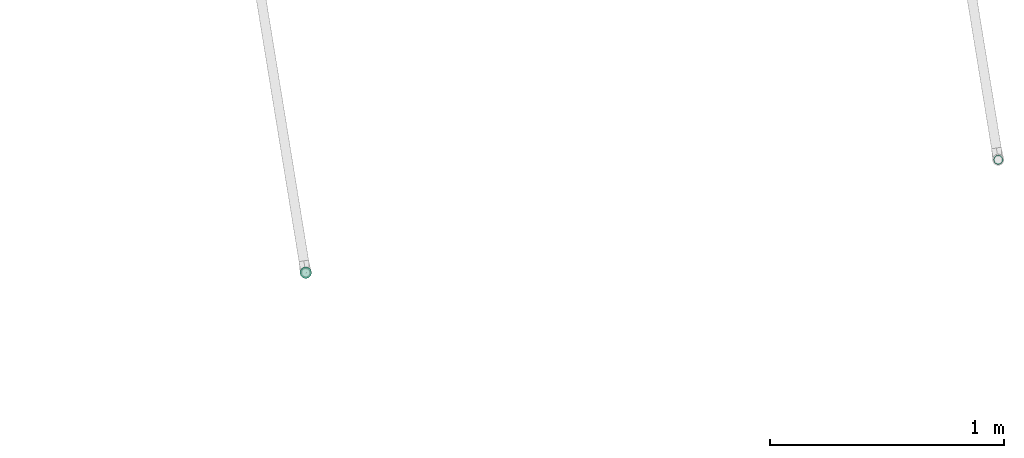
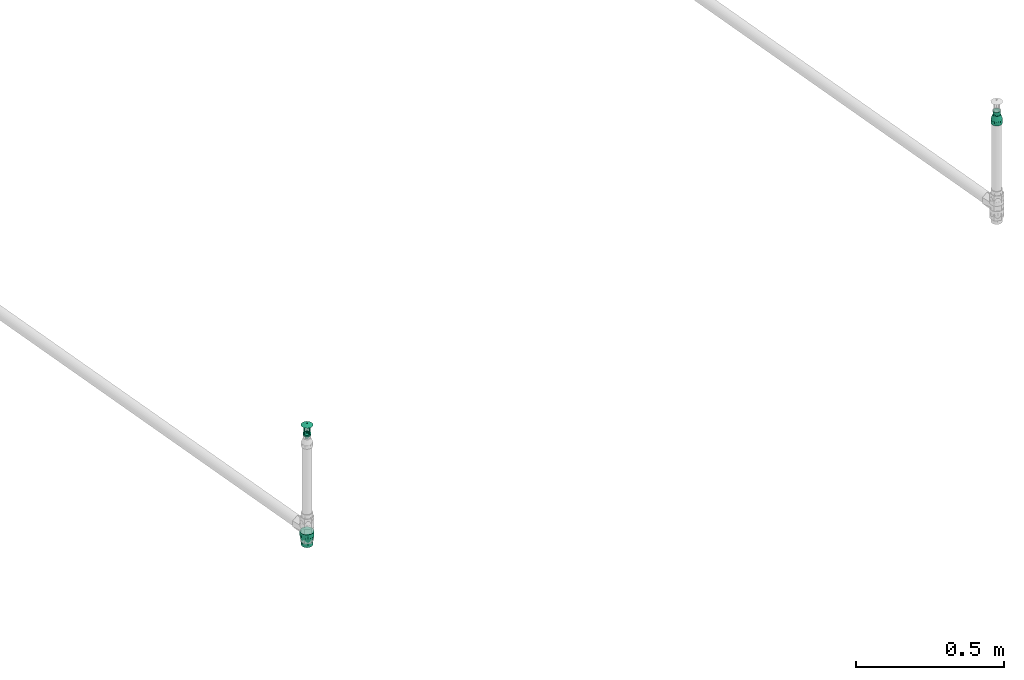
# One storey, part 38 of 56: 2 flow fittings, 1 flow terminal.
"""IFC2X3 building model written with IfcOpenShell, lengths in millimetres."""

import ifcopenshell
import ifcopenshell.guid

model = None  # the IFC model being written
_history = None  # IfcOwnerHistory: only IFC2X3 demands one
_inside = {}  # id of a spatial element -> (the spatial element, [elements in it])
_under = {}  # id of a project, library or spatial element -> (it, [spatial elements below it])
_declared = {}  # id of a project -> (the project, [libraries it declares])
_typed = {}  # id of a type object -> (the type object, [elements of that type])
_made_of = {}  # id of a material, layer set ... -> (it, [elements and type objects made of it])


def new_model(schema):
    """Start an empty IFC model of exactly this schema.

    Asked for "IFC4X3", IfcOpenShell would pick the latest addendum, in which some entities
    have other attributes; the version numbers below select the first issue.
    IFC2X3 requires an IfcOwnerHistory on every rooted entity: one is made here for all.
    """
    global model, _history
    if schema == "IFC4X3":
        model = ifcopenshell.file(schema_version=(4, 3, 0, 0))
    else:
        model = ifcopenshell.file(schema=schema)
    _inside.clear()
    _under.clear()
    _declared.clear()
    _typed.clear()
    _made_of.clear()
    _history = None
    if model.schema == "IFC2X3":
        org = make("IfcOrganization", Name="unknown")
        user = make(
            "IfcPersonAndOrganization",
            ThePerson=make("IfcPerson", FamilyName="unknown"),
            TheOrganization=org,
        )
        app = make(
            "IfcApplication",
            ApplicationDeveloper=org,
            Version="unknown",
            ApplicationFullName="unknown",
            ApplicationIdentifier="unknown",
        )
        _history = make(
            "IfcOwnerHistory",
            OwningUser=user,
            OwningApplication=app,
            ChangeAction="ADDED",
            CreationDate=0,
        )
    return model


def make(cls, **values):
    """One entity of the class cls with the attributes given. An attribute that is None is left unset."""
    return model.create_entity(
        cls, **{name: value for name, value in values.items() if value is not None}
    )


def entity(cls, *values):
    """Any entity or typed value of the class cls, its attributes in the order of the schema. None: left unset."""
    e = model.create_entity(cls)
    for i, value in enumerate(values):
        if value is not None:
            e[i] = value
    return e


def rooted(cls, **values):
    """An entity with a GlobalId (a new one), such as an element, a storey or a relation."""
    return make(cls, GlobalId=ifcopenshell.guid.new(), OwnerHistory=_history, **values)


def si_unit(unit_type, name, prefix=None):
    """IfcSIUnit, for example si_unit("LENGTHUNIT", "METRE", prefix="MILLI")."""
    return make("IfcSIUnit", UnitType=unit_type, Prefix=prefix, Name=name)


def converted_unit(unit_type, name, factor, base, dimensions=None, offset=None):
    """IfcConversionBasedUnit, such as the inch: factor (a typed value) times the base unit."""
    return make(
        "IfcConversionBasedUnit"
        if offset is None
        else "IfcConversionBasedUnitWithOffset",
        ConversionOffset=offset,
        Dimensions=None
        if dimensions is None
        else entity("IfcDimensionalExponents", *dimensions),
        UnitType=unit_type,
        Name=name,
        ConversionFactor=make(
            "IfcMeasureWithUnit", ValueComponent=factor, UnitComponent=base
        ),
    )


def derived_unit(unit_type, elements):
    """IfcDerivedUnit: a product of units, each with its exponent."""
    return make(
        "IfcDerivedUnit",
        Elements=[
            make("IfcDerivedUnitElement", Unit=unit, Exponent=power)
            for unit, power in elements
        ],
        UnitType=unit_type,
    )


def assignment(units):
    """IfcUnitAssignment: the units of a project."""
    return None if units is None else make("IfcUnitAssignment", Units=units)


def point(xyz):
    """IfcCartesianPoint."""
    return None if xyz is None else make("IfcCartesianPoint", Coordinates=xyz)


def direction(xyz):
    """IfcDirection."""
    return None if xyz is None else make("IfcDirection", DirectionRatios=xyz)


def frame(location, z_axis=None, x_axis=None):
    """IfcAxis2Placement3D, a coordinate frame: its origin and axes. An axis left out is left unset."""
    return make(
        "IfcAxis2Placement3D",
        Location=point(location),
        Axis=direction(z_axis),
        RefDirection=direction(x_axis),
    )


def origin():
    """The frame at (0, 0, 0) with its axes left unset."""
    return frame((0.0, 0.0, 0.0))


def origin_with_axes():
    """The frame at (0, 0, 0) with the z axis (0, 0, 1) and the x axis (1, 0, 0) written out."""
    return frame((0.0, 0.0, 0.0), z_axis=(0.0, 0.0, 1.0), x_axis=(1.0, 0.0, 0.0))


def place(relative_to, where):
    """IfcLocalPlacement: puts the frame where relative to a parent placement (None: the world)."""
    return make(
        "IfcLocalPlacement", PlacementRelTo=relative_to, RelativePlacement=where
    )


def context(
    kind, dimensions, precision=None, world=None, true_north=None, identifier=None
):
    """IfcGeometricRepresentationContext, for example the 3D "Model" context."""
    return make(
        "IfcGeometricRepresentationContext",
        ContextIdentifier=identifier,
        ContextType=kind,
        CoordinateSpaceDimension=dimensions,
        Precision=precision,
        WorldCoordinateSystem=world,
        TrueNorth=true_north,
    )


def subcontext(parent, identifier, kind, view, scale=None):
    """IfcGeometricRepresentationSubContext, for example "Body" below "Model"."""
    return make(
        "IfcGeometricRepresentationSubContext",
        ContextIdentifier=identifier,
        ContextType=kind,
        ParentContext=parent,
        TargetScale=scale,
        TargetView=view,
    )


def project(units=None, contexts=None):
    """IfcProject with its units and contexts."""
    return rooted(
        "IfcProject",
        Name="project",
        RepresentationContexts=contexts,
        UnitsInContext=assignment(units),
    )


def spatial(cls, under=None, at=None, **own):
    """A site, building, storey or space (cls), placed at a placement, below another one or the project."""
    s = rooted(cls, ObjectPlacement=at, **own)
    if under is not None:
        _under.setdefault(under.id(), (under, []))[1].append(s)
    return s


def faces_of(points, faces, orient=None, outer=None):
    """IfcFace entities. A face is a list of loops; a loop is a list of indices into points, from 0.

    orient and outer hold one flag for each loop. By default every Orientation is true, the
    first loop of a face is its IfcFaceOuterBound and the others are IfcFaceBound.
    """
    made = []
    for i, loops in enumerate(faces):
        bounds = []
        for j, loop in enumerate(loops):
            is_outer = j == 0 if outer is None else outer[i][j]
            bounds.append(
                make(
                    "IfcFaceOuterBound" if is_outer else "IfcFaceBound",
                    Bound=make("IfcPolyLoop", Polygon=[points[k] for k in loop]),
                    Orientation=True if orient is None else orient[i][j],
                )
            )
        made.append(make("IfcFace", Bounds=bounds))
    return made


def faceted_brep(points, faces, orient=None, outer=None, voids=None):
    """IfcFacetedBrep: a solid bounded by flat faces; with voids (closed shells), ...WithVoids."""
    shared = [point(p) for p in points]
    hull = make("IfcClosedShell", CfsFaces=faces_of(shared, faces, orient, outer))
    if voids is None:
        return make("IfcFacetedBrep", Outer=hull)
    return make(
        "IfcFacetedBrepWithVoids",
        Outer=hull,
        Voids=[
            make(cls, CfsFaces=faces_of(shared, fs, o, b)) for cls, fs, o, b in voids
        ],
    )


def shape(context_of_items, identifier, shape_type, items):
    """IfcShapeRepresentation: the items that make up one representation, for example the "Body"."""
    return make(
        "IfcShapeRepresentation",
        ContextOfItems=context_of_items,
        RepresentationIdentifier=identifier,
        RepresentationType=shape_type,
        Items=items,
    )


def source(mapping_origin, context_of_items, identifier, shape_type, items):
    """IfcRepresentationMap: a shape defined once, which mapped items show again and again."""
    return make(
        "IfcRepresentationMap",
        MappingOrigin=mapping_origin,
        MappedRepresentation=shape(context_of_items, identifier, shape_type, items),
    )


def transform(
    local_origin,
    x_axis=None,
    y_axis=None,
    z_axis=None,
    scale=None,
    scale2=None,
    scale3=None,
    uniform=True,
):
    """IfcCartesianTransformationOperator3D, or its non-uniform kind. x_axis, y_axis, z_axis: its Axis1, 2, 3."""
    if uniform:
        return make(
            "IfcCartesianTransformationOperator3D",
            Axis1=direction(x_axis),
            Axis2=direction(y_axis),
            LocalOrigin=point(local_origin),
            Scale=scale,
            Axis3=direction(z_axis),
        )
    return make(
        "IfcCartesianTransformationOperator3DnonUniform",
        Axis1=direction(x_axis),
        Axis2=direction(y_axis),
        LocalOrigin=point(local_origin),
        Scale=scale,
        Axis3=direction(z_axis),
        Scale2=scale2,
        Scale3=scale3,
    )


def mapped(mapping_source, mapping_target):
    """IfcMappedItem: shows the shape of a source again, moved by a transform."""
    return make(
        "IfcMappedItem", MappingSource=mapping_source, MappingTarget=mapping_target
    )


def material(Name=None, Category=None):
    """IfcMaterial."""
    return make("IfcMaterial", Name=Name, Category=Category)


def made_of(thing, what):
    """Note that an element or type object is made of a material, layer set ...; save() writes the relation."""
    if what is not None:
        _made_of.setdefault(what.id(), (what, []))[1].append(thing)
    return thing


def type_object(cls, material=None, **own):
    """A type object (cls), such as IfcWallType, which elements share."""
    return made_of(rooted(cls, **own), material)


def element(
    cls,
    number,
    at=None,
    inside=None,
    cuts=None,
    type_object=None,
    material=None,
    context=None,
    identifier="Body",
    shape_type=None,
    held_by="IfcProductDefinitionShape",
    body=None,
    shapes=None,
    **own,
):
    """One element of the class cls, such as IfcWall. Its Tag is "e" and its number.

    at: its placement. inside: the storey or other place that contains it. cuts: it is an
    opening in that element (IfcRelVoidsElement). A single representation is given by context,
    identifier, shape_type and body (its items); several are given by shapes. held_by: the class
    of the entity that holds the representations. save() writes the other relations.
    """
    e = rooted(cls, Tag="e%d" % number, ObjectPlacement=at, **own)
    if body is not None:
        shapes = [shape(context, identifier, shape_type, body)]
    if shapes is not None:
        e.Representation = make(held_by, Representations=shapes)
    if inside is not None:
        _inside.setdefault(inside.id(), (inside, []))[1].append(e)
    if cuts is not None:
        rooted(
            "IfcRelVoidsElement", RelatingBuildingElement=cuts, RelatedOpeningElement=e
        )
    if type_object is not None:
        _typed.setdefault(type_object.id(), (type_object, []))[1].append(e)
    return made_of(e, material)


def aggregate(whole, parts):
    """IfcRelAggregates: a whole, such as a stair, and the parts it consists of."""
    return rooted("IfcRelAggregates", RelatingObject=whole, RelatedObjects=parts)


def save(model, path):
    """Write the relations noted so far, then the file.

    IfcRelAggregates (storeys below a building ...), IfcRelContainedInSpatialStructure (elements
    in a storey), IfcRelDefinesByType, IfcRelAssociatesMaterial and IfcRelDeclares: one each for
    every whole, place, type object, material and project.
    """
    for whole, parts in _under.values():
        aggregate(whole, parts)
    for where, things in _inside.values():
        rooted(
            "IfcRelContainedInSpatialStructure",
            RelatedElements=things,
            RelatingStructure=where,
        )
    for kind, things in _typed.values():
        rooted("IfcRelDefinesByType", RelatedObjects=things, RelatingType=kind)
    for what, things in _made_of.values():
        rooted("IfcRelAssociatesMaterial", RelatedObjects=things, RelatingMaterial=what)
    for by, libraries in _declared.values():
        rooted("IfcRelDeclares", RelatingContext=by, RelatedDefinitions=libraries)
    model.write(path)


model = new_model("IFC2X3")

# Units and contexts
model_context = context("Model", 3, precision=0.01, world=origin(), true_north=direction((6.12323399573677e-17, 1.0)))
plan_context = context("Plan", 3, precision=1e-05, world=origin_with_axes())
body_context = subcontext(model_context, "Body", "Model", "MODEL_VIEW")
ifc_project = project(units=[converted_unit("PLANEANGLEUNIT", "DEGREE", entity("IfcPositiveLengthMeasure", 0.0174532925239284), si_unit("PLANEANGLEUNIT", "RADIAN"), dimensions=[0, 0, 0, 0, 0, 0, 0]), si_unit("AREAUNIT", "SQUARE_METRE"), si_unit("LENGTHUNIT", "METRE", prefix="MILLI"), si_unit("MASSUNIT", "GRAM", prefix="KILO"), si_unit("POWERUNIT", "WATT"), si_unit("PRESSUREUNIT", "PASCAL", prefix="KILO"), si_unit("FORCEUNIT", "NEWTON", prefix="KILO"), si_unit("ELECTRICVOLTAGEUNIT", "VOLT"), si_unit("ELECTRICCURRENTUNIT", "AMPERE"), si_unit("THERMODYNAMICTEMPERATUREUNIT", "DEGREE_CELSIUS"), si_unit("TIMEUNIT", "SECOND"), si_unit("VOLUMEUNIT", "CUBIC_METRE"), derived_unit("LINEARVELOCITYUNIT", [(si_unit("LENGTHUNIT", "METRE"), 1), (si_unit("TIMEUNIT", "SECOND"), -1)]), derived_unit("VOLUMETRICFLOWRATEUNIT", [(si_unit("VOLUMEUNIT", "CUBIC_METRE"), 1), (si_unit("TIMEUNIT", "SECOND"), -1)]), derived_unit("THERMALTRANSMITTANCEUNIT", [(si_unit("POWERUNIT", "WATT"), 1), (si_unit("THERMODYNAMICTEMPERATUREUNIT", "KELVIN"), -1), (si_unit("AREAUNIT", "SQUARE_METRE"), -1)]), derived_unit("SOUNDPRESSUREUNIT", [(si_unit("PRESSUREUNIT", "PASCAL"), 1)])], contexts=[model_context, plan_context])

# Site, building, storey
site_placement = place(None, frame((-3.09682673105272e-06, 1.93776733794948e-05, 0.0), z_axis=(0.0, 0.0, 1.0), x_axis=(-0.160806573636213, 0.986985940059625, 0.0)))
site = spatial("IfcSite", under=ifc_project, at=site_placement, Name="Default", CompositionType="ELEMENT")
building_placement = place(site_placement, frame((0.0, 0.0, 0.0), z_axis=(0.0, 0.0, 1.0), x_axis=(1.0, -2.77555756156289e-17, 0.0)))
building = spatial("IfcBuilding", under=site, at=building_placement, Name="Bygning (endres i Project Information)", CompositionType="ELEMENT")
storey_placement = place(building_placement, frame((0.0, 0.0, 51360.0000000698), z_axis=(0.0, 0.0, 1.0), x_axis=(1.0, -2.77555756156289e-17, 0.0)))
storey = spatial("IfcBuildingStorey", under=building, at=storey_placement, Name="H01-Nivå D+0,36", CompositionType="ELEMENT", Elevation=51360.0000000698)

# Flow fittings
ifc_material = material(Name="3320.001")
pipe_fitting_type_1 = type_object("IfcPipeFittingType", Name="RS_53_PIF_UN_Reducing-Socket-EN10241_MC_gen:RS_53_PIF_UN_Reducing-Socket-EN10241_MC_gen", PredefinedType="NOTDEFINED", material=ifc_material)
shared_shape_1 = source(origin(), body_context, "Body", "Brep", [
    faceted_brep([(0.0, 5.11167614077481, 19.0770350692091), (0.0, 9.87500000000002, 17.1040017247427), (0.0, 13.9653589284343, 13.9653589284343), (0.0, 17.1040017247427, 9.87499999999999), (0.0, 19.0770350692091, 5.11167614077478), (0.0, 19.75, 0.0), (0.0, 19.0770350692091, -5.1116761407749), (0.0, 17.1040017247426, -9.8750000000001), (0.0, 13.9653589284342, -13.9653589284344), (0.0, 9.87499999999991, -17.1040017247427), (0.0, 5.11167614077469, -19.0770350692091), (0.0, 0.0, -19.75), (0.0, -5.11167614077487, -19.0770350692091), (0.0, -9.87500000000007, -17.1040017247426), (0.0, -13.9653589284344, -13.9653589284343), (0.0, -17.1040017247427, -9.87499999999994), (0.0, -19.0770350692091, -5.11167614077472), (0.0, -19.75, 0.0), (0.0, -19.0770350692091, 5.11167614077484), (0.0, -17.1040017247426, 9.87500000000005), (0.0, -13.9653589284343, 13.9653589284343), (0.0, -9.87499999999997, 17.1040017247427), (0.0, -5.11167614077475, 19.0770350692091), (0.0, 0.0, 19.75), (17.0, -6.65118285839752, -18.277344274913), (17.0, -15.1289479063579, -12.6955675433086), (17.0, -16.8438814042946, -9.72538978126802), (17.0, -18.5588149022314, -6.7552120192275), (17.0, -9.87413131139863, -17.1045032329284), (17.0, -12.5015396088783, -14.9000353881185), (17.0, -19.1544074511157, -3.37760600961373), (17.0, -3.42823440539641, -19.4501853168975), (17.0, 3.43119786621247, -19.4496627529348), (17.0, 0.0014817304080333, -19.4499240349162), (17.0, -19.75, 0.0), (17.0, 6.65396758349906, -18.2763306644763), (17.0, 9.87673730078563, -17.1029985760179), (17.0, 18.5598439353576, -6.75238425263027), (17.0, 16.8453630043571, -9.7228232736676), (17.0, 15.1308820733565, -12.6932622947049), (17.0, 12.5038096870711, -14.8981304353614), (17.0, 19.75, 0.0), (17.0, 15.1308820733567, 12.6932622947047), (17.0, 16.8453630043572, 9.72282327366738), (17.0, 18.5598439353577, 6.75238425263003), (17.0, 9.87673730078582, 17.1029985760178), (17.0, 12.5038096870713, 14.8981304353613), (17.0, 3.43119786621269, 19.4496627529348), (17.0, 6.65396758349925, 18.2763306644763), (17.0, -3.4282344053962, 19.4501853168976), (17.0, 0.00148173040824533, 19.4499240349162), (17.0, -15.1289479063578, 12.6955675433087), (17.0, -6.65118285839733, 18.277344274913), (17.0, -9.87413131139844, 17.1045032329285), (17.0, -12.5015396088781, 14.9000353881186), (17.0, -19.1544074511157, 3.37760600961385), (17.0, -18.5588149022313, 6.75521201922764), (17.0, -16.8438814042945, 9.72538978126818), (34.0, 13.5000000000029, 0.0), (34.0, 12.6868795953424, -4.61444320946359), (34.0, -4.54589529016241, -12.4935366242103), (34.0, -2.34276817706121, -13.2951659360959), (34.0, 6.75195505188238, -11.6902139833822), (34.0, 0.00166747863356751, -13.2948718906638), (34.0, 2.34610313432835, -13.2945778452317), (34.0, 10.3432928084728, -8.67561489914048), (34.0, 8.54762393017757, -10.1829144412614), (34.0, 4.54902909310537, -12.492395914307), (34.0, 11.5150862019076, -6.64502905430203), (34.0, -6.74902240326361, -11.6919073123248), (34.0, -13.4999999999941, 0.0), (34.0, -13.0928608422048, -2.30881275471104), (34.0, -10.3411162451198, -8.6782091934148), (34.0, -8.54506932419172, -10.1850582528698), (34.0, -12.6857216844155, -4.61762550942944), (34.0, -11.5134189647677, -6.64791735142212), (34.0, -13.0928608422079, 2.30881275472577), (34.0, -12.6857216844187, 4.6176255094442), (34.0, 2.34610313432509, 13.2945778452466), (34.0, 4.54902909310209, 12.4923959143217), (34.0, -10.3411162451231, 8.67820919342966), (34.0, 0.00166747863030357, 13.2948718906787), (34.0, -6.74902240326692, 11.6919073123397), (34.0, -8.54506932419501, 10.1850582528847), (34.0, -11.5134189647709, 6.64791735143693), (34.0, -2.34276817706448, 13.2951659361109), (34.0, -4.5458952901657, 12.4935366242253), (34.0, 12.6868795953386, 4.61444320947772), (34.0, 11.5150862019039, 6.64502905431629), (34.0, 10.3432928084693, 8.67561489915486), (34.0, 6.7519550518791, 11.6902139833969), (34.0, 8.54762393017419, 10.1829144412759), (51.0, 3.49405710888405, -13.0399986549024), (51.0, 6.75000000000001, -11.6913429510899), (51.0, 9.5459415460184, -9.54594154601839), (51.0, 11.6913429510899, -6.74999999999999), (51.0, 13.0399986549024, -3.49405710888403), (51.0, 13.5, 0.0), (51.0, 13.0399986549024, 3.49405710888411), (51.0, 11.6913429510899, 6.75000000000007), (51.0, 9.54594154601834, 9.54594154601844), (51.0, 6.74999999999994, 11.69134295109), (51.0, 3.49405710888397, 13.0399986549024), (51.0, 0.0, 13.5), (51.0, -3.49405710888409, 13.0399986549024), (51.0, -6.75000000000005, 11.6913429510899), (51.0, -9.54594154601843, 9.54594154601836), (51.0, -11.6913429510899, 6.74999999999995), (51.0, -13.0399986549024, 3.49405710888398), (51.0, -13.5, 0.0), (51.0, -13.0399986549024, -3.49405710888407), (51.0, -11.6913429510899, -6.75000000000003), (51.0, -9.54594154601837, -9.54594154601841), (51.0, -6.74999999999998, -11.6913429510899), (51.0, -3.49405710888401, -13.0399986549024), (51.0, 0.0, -13.5)], [[[0, 1, 2, 3, 4, 5, 6, 7, 8, 9, 10, 11, 12, 13, 14, 15, 16, 17, 18, 19, 20, 21, 22, 23]], [[24, 13, 12]], [[15, 14, 25]], [[15, 25, 26, 27]], [[28, 29, 13]], [[16, 27, 30]], [[30, 17, 16]], [[15, 27, 16]], [[12, 31, 24]], [[25, 14, 29]], [[11, 32, 33, 31]], [[24, 28, 13]], [[13, 29, 14]], [[30, 34, 17]], [[32, 11, 10]], [[35, 9, 36]], [[7, 37, 38, 39]], [[9, 35, 10]], [[7, 6, 37]], [[8, 39, 40]], [[32, 10, 35]], [[7, 39, 8]], [[40, 36, 9]], [[6, 41, 37]], [[6, 5, 41]], [[11, 31, 12]], [[40, 9, 8]], [[41, 5, 4]], [[3, 2, 42]], [[3, 42, 43, 44]], [[45, 46, 1]], [[44, 41, 4]], [[0, 47, 48]], [[42, 2, 46]], [[23, 49, 50, 47]], [[1, 46, 2]], [[49, 23, 22]], [[19, 51, 20]], [[52, 21, 53]], [[3, 44, 4]], [[48, 45, 1]], [[54, 53, 21]], [[17, 34, 55]], [[21, 52, 22]], [[20, 51, 54]], [[49, 22, 52]], [[48, 1, 0]], [[17, 55, 18]], [[56, 19, 18]], [[18, 55, 56]], [[54, 21, 20]], [[57, 51, 19, 56]], [[23, 47, 0]], [[41, 58, 59]], [[60, 31, 61]], [[40, 62, 36]], [[63, 32, 64]], [[65, 39, 38]], [[64, 32, 35]], [[61, 33, 63]], [[37, 41, 59]], [[62, 40, 66]], [[40, 39, 66]], [[35, 36, 67]], [[65, 38, 68]], [[37, 68, 38]], [[64, 35, 67]], [[61, 31, 33]], [[69, 28, 24]], [[69, 24, 60]], [[70, 30, 71]], [[72, 29, 73]], [[30, 70, 34]], [[74, 27, 26]], [[68, 37, 59]], [[72, 25, 29]], [[27, 74, 71]], [[31, 60, 24]], [[29, 28, 73]], [[75, 26, 25]], [[67, 36, 62]], [[66, 39, 65]], [[27, 71, 30]], [[74, 26, 75]], [[73, 28, 69]], [[63, 33, 32]], [[75, 25, 72]], [[56, 76, 77]], [[48, 78, 79]], [[54, 51, 80]], [[81, 47, 50]], [[57, 56, 77]], [[52, 53, 82]], [[82, 53, 83]], [[55, 70, 76]], [[70, 55, 34]], [[84, 51, 57]], [[50, 85, 81]], [[56, 55, 76]], [[86, 49, 52]], [[83, 53, 54]], [[81, 78, 47]], [[48, 47, 78]], [[80, 51, 84]], [[49, 85, 50]], [[87, 44, 88]], [[87, 58, 41]], [[43, 42, 89]], [[57, 77, 84]], [[46, 45, 90]], [[85, 49, 86]], [[88, 44, 43]], [[54, 80, 83]], [[91, 42, 46]], [[52, 82, 86]], [[89, 42, 91]], [[87, 41, 44]], [[90, 45, 79]], [[46, 90, 91]], [[79, 45, 48]], [[43, 89, 88]], [[92, 93, 94, 95, 96, 97, 98, 99, 100, 101, 102, 103, 104, 105, 106, 107, 108, 109, 110, 111, 112, 113, 114, 115]], [[58, 97, 96]], [[95, 94, 65]], [[95, 65, 68, 59]], [[62, 66, 93]], [[59, 58, 96]], [[92, 64, 67]], [[65, 94, 66]], [[115, 61, 63, 64]], [[93, 66, 94]], [[67, 93, 92]], [[67, 62, 93]], [[95, 59, 96]], [[114, 61, 115]], [[111, 110, 74]], [[73, 113, 112]], [[109, 71, 110]], [[111, 74, 75, 72]], [[109, 70, 71]], [[60, 61, 114]], [[113, 69, 60]], [[111, 72, 112]], [[113, 60, 114]], [[112, 72, 73]], [[115, 64, 92]], [[71, 74, 110]], [[73, 69, 113]], [[86, 105, 104]], [[107, 106, 80]], [[107, 80, 84, 77]], [[82, 83, 105]], [[108, 77, 76]], [[76, 70, 109]], [[76, 109, 108]], [[104, 85, 86]], [[80, 106, 83]], [[103, 78, 81, 85]], [[91, 101, 100]], [[105, 83, 106]], [[86, 82, 105]], [[78, 103, 102]], [[79, 101, 90]], [[99, 87, 88, 89]], [[101, 79, 102]], [[99, 98, 87]], [[100, 89, 91]], [[78, 102, 79]], [[103, 85, 104]], [[99, 89, 100]], [[98, 58, 87]], [[107, 77, 108]], [[98, 97, 58]], [[91, 90, 101]]]),
])
flow_fitting_1_placement = place(storey_placement, frame((994236.263254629, -395286.663841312, 3707.99999993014), z_axis=(2.77555756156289e-17, 1.0, 0.0), x_axis=(0.0, 0.0, 1.0)))
element("IfcFlowFitting", 1, at=flow_fitting_1_placement, inside=storey, type_object=pipe_fitting_type_1, material=ifc_material, Name="RS_53_PIF_UN_Reducing-Socket-EN10241_MC_gen:RS_53_PIF_UN_Reducing-Socket-EN10241_MC_gen", ObjectType="RS_53_PIF_UN_Reducing-Socket-EN10241_MC_gen:RS_53_PIF_UN_Reducing-Socket-EN10241_MC_gen", context=body_context, shape_type="MappedRepresentation", body=[
    mapped(shared_shape_1, transform((0.0, 0.0, 0.0), scale=1.0)),
])
pipe_fitting_type_2 = type_object("IfcPipeFittingType", Name="RS_53_PIF_UN_Reducing-Socket-EN10241_MC_gen:RS_53_PIF_UN_Reducing-Socket-EN10241_MC_gen", PredefinedType="NOTDEFINED", material=ifc_material)
shared_shape_2 = source(origin(), body_context, "Body", "Brep", [
    faceted_brep([(0.0, -12.25, 21.2176223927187), (0.0, -6.34106660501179, 23.6651827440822), (0.0, 0.0, 24.5), (0.0, 6.34106660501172, 23.6651827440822), (0.0, 12.25, 21.2176223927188), (0.0, 17.3241161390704, 17.3241161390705), (0.0, 21.2176223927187, 12.2500000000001), (0.0, 23.6651827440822, 6.34106660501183), (0.0, 24.5, 0.0), (0.0, 23.6651827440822, -6.34106660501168), (0.0, 21.2176223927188, -12.2499999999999), (0.0, 17.3241161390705, -17.3241161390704), (0.0, 12.2500000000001, -21.2176223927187), (0.0, 6.34106660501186, -23.6651827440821), (0.0, 0.0, -24.5), (0.0, -6.34106660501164, -23.6651827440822), (0.0, -12.2499999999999, -21.2176223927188), (0.0, -17.3241161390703, -17.3241161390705), (0.0, -21.2176223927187, -12.2500000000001), (0.0, -23.6651827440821, -6.34106660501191), (0.0, -24.5, 0.0), (0.0, -23.6651827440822, 6.34106660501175), (0.0, -21.2176223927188, 12.25), (0.0, -17.3241161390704, 17.3241161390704), (18.6666666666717, 8.25137606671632, -22.6729794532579), (18.6666666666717, 18.7677686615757, -15.7486780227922), (18.6666666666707, 20.8950763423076, -12.0642027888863), (18.6666666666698, 23.0223840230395, -8.37972755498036), (18.6666666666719, 15.5085607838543, -18.4833370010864), (18.6666666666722, 12.2493529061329, -21.2179959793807), (18.6666666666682, 23.7611920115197, -4.18986377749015), (18.6666666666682, 23.7125607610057, -4.46565710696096), (18.6666666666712, 4.25339922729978, -24.1279629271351), (18.6666666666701, -0.00110376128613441, -24.1277682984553), (18.6666666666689, -4.25560674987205, -24.1275736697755), (18.6666666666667, 24.5, 0.0), (18.6666666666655, -12.2512941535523, -21.2168751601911), (18.6666666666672, -8.25345045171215, -22.6722244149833), (18.6666666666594, -20.8961800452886, -12.062290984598), (18.6666666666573, -23.0231506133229, -8.37762113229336), (18.6666666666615, -18.7692094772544, -15.7469608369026), (18.6666666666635, -15.5102518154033, -18.4819179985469), (18.6666666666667, -24.5, 0.0), (18.6666666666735, -18.7692094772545, 15.7469608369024), (18.666666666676, -20.8961800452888, 12.0622909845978), (18.6666666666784, -23.023150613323, 8.3776211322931), (18.6666666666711, -15.5102518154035, 18.4819179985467), (18.6666666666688, -12.2512941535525, 21.216875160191), (18.6666666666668, -8.25345045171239, 22.6722244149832), (18.6666666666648, -4.25560674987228, 24.1275736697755), (18.6666666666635, -0.00110376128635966, 24.1277682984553), (18.6666666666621, 4.25339922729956, 24.1279629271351), (18.6666666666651, 23.7611920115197, 4.1898637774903), (18.666666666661, 12.2493529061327, 21.2179959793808), (18.6666666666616, 8.25137606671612, 22.672979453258), (18.6666666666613, 15.5085607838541, 18.4833370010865), (18.6666666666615, 18.7677686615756, 15.7486780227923), (18.6666666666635, 23.0223840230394, 8.37972755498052), (18.6666666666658, 23.7125607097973, 4.46565739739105), (18.6666666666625, 20.8950763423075, 12.0642027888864), (37.3333333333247, -18.5595959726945, -6.75306577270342), (37.3333333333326, -19.750000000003, 0.0), (37.3333333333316, -9.87626627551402, -17.1032705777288), (37.3333333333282, -15.1304742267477, -12.6937484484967), (37.3333333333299, -12.5033702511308, -14.8985095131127), (37.3333333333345, -3.43075149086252, -19.4497414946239), (37.333333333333, -6.65350888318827, -18.2765060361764), (37.3333333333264, -16.8450350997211, -9.72340711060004), (37.3333333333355, -0.00107998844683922, -19.4499319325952), (37.3333333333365, 3.42859151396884, -19.4501223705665), (37.3333333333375, 9.87436684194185, -17.1043672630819), (37.333333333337, 6.65147917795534, -18.2772448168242), (37.3333333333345, 19.1544229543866, -3.37756341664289), (37.3333333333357, 18.558845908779, -6.75512683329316), (37.3333333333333, 19.7499999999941, 0.0), (37.3333333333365, 16.8439551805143, -9.72527774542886), (37.3333333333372, 15.1290644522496, -12.6954286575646), (37.3333333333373, 12.5017156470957, -14.8998979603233), (37.3333333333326, 19.1544229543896, 3.37756341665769), (37.3333333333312, 18.5588459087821, 6.755126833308), (37.3333333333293, 15.1290644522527, 12.6954286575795), (37.3333333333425, -16.8450350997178, 9.72340711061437), (37.3333333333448, -18.559595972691, 6.75306577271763), (37.3333333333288, 9.87436684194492, 17.104367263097), (37.3333333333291, 12.5017156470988, 14.8998979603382), (37.3333333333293, 6.65147917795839, 18.2772448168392), (37.3333333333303, 16.8439551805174, 9.72527774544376), (37.3333333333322, -3.43075149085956, 19.4497414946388), (37.333333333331, -0.00107998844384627, 19.4499319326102), (37.3333333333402, -15.1304742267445, 12.6937484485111), (37.333333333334, -6.65350888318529, 18.2765060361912), (37.3333333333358, -9.87626627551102, 17.1032705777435), (37.333333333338, -12.5033702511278, 14.8985095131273), (37.3333333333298, 3.42859151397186, 19.4501223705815), (56.0, 0.0, -19.75), (56.0, 5.11167614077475, -19.0770350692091), (56.0, 9.87499999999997, -17.1040017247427), (56.0, 13.9653589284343, -13.9653589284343), (56.0, 17.1040017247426, -9.87500000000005), (56.0, 19.0770350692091, -5.11167614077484), (56.0, 19.75, 0.0), (56.0, 19.0770350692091, 5.11167614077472), (56.0, 17.1040017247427, 9.87499999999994), (56.0, 13.9653589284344, 13.9653589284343), (56.0, 9.87500000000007, 17.1040017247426), (56.0, 5.11167614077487, 19.0770350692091), (56.0, 0.0, 19.75), (56.0, -5.11167614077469, 19.0770350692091), (56.0, -9.87499999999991, 17.1040017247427), (56.0, -13.9653589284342, 13.9653589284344), (56.0, -17.1040017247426, 9.8750000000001), (56.0, -19.0770350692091, 5.1116761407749), (56.0, -19.75, 0.0), (56.0, -19.0770350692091, -5.11167614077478), (56.0, -17.1040017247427, -9.87499999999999), (56.0, -13.9653589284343, -13.9653589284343), (56.0, -9.87500000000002, -17.1040017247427), (56.0, -5.11167614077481, -19.0770350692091)], [[[0, 1, 2, 3, 4, 5, 6, 7, 8, 9, 10, 11, 12, 13, 14, 15, 16, 17, 18, 19, 20, 21, 22, 23]], [[13, 12, 24]], [[25, 11, 10]], [[26, 25, 10, 27]], [[12, 28, 29]], [[9, 30, 31, 27]], [[9, 8, 30]], [[9, 27, 10]], [[24, 32, 13]], [[28, 11, 25]], [[33, 34, 14, 32]], [[12, 29, 24]], [[11, 28, 12]], [[8, 35, 30]], [[15, 14, 34]], [[36, 16, 37]], [[38, 39, 18, 40]], [[15, 37, 16]], [[39, 19, 18]], [[41, 40, 17]], [[37, 15, 34]], [[17, 40, 18]], [[16, 36, 41]], [[39, 42, 19]], [[42, 20, 19]], [[13, 32, 14]], [[17, 16, 41]], [[21, 20, 42]], [[43, 23, 22]], [[44, 43, 22, 45]], [[0, 46, 47]], [[21, 42, 45]], [[48, 49, 1]], [[46, 23, 43]], [[50, 51, 2, 49]], [[23, 46, 0]], [[3, 2, 51]], [[1, 49, 2]], [[7, 52, 8]], [[53, 4, 54]], [[1, 0, 48]], [[5, 4, 55]], [[8, 52, 35]], [[21, 45, 22]], [[3, 54, 4]], [[55, 56, 5]], [[54, 3, 51]], [[0, 47, 48]], [[5, 56, 6]], [[7, 6, 57]], [[7, 57, 58, 52]], [[4, 53, 55]], [[6, 56, 59, 57]], [[60, 61, 42]], [[36, 62, 41]], [[63, 40, 64]], [[63, 38, 40]], [[65, 37, 34]], [[66, 37, 65]], [[60, 42, 39]], [[67, 38, 63]], [[64, 40, 41]], [[66, 36, 37]], [[64, 41, 62]], [[38, 67, 39]], [[68, 33, 69]], [[33, 32, 69]], [[29, 70, 24]], [[71, 69, 32]], [[72, 31, 30, 35]], [[26, 27, 73]], [[35, 74, 72]], [[73, 75, 26]], [[28, 25, 76]], [[76, 77, 28]], [[71, 24, 70]], [[71, 32, 24]], [[29, 77, 70]], [[25, 75, 76]], [[28, 77, 29]], [[26, 75, 25]], [[27, 31, 73]], [[72, 73, 31]], [[62, 36, 66]], [[34, 33, 68]], [[65, 34, 68]], [[60, 39, 67]], [[78, 58, 79]], [[56, 55, 80]], [[81, 45, 82]], [[57, 59, 79]], [[53, 54, 83]], [[84, 80, 55]], [[78, 35, 52, 58]], [[58, 57, 79]], [[55, 53, 84]], [[54, 51, 85]], [[74, 35, 78]], [[59, 56, 86]], [[53, 83, 84]], [[87, 88, 49]], [[87, 49, 48]], [[86, 79, 59]], [[85, 83, 54]], [[50, 49, 88]], [[42, 61, 82]], [[89, 43, 44]], [[48, 47, 90]], [[91, 47, 46]], [[56, 80, 86]], [[44, 45, 81]], [[90, 87, 48]], [[46, 43, 92]], [[90, 47, 91]], [[93, 51, 50]], [[82, 45, 42]], [[51, 93, 85]], [[81, 89, 44]], [[88, 93, 50]], [[92, 91, 46]], [[92, 43, 89]], [[94, 95, 96, 97, 98, 99, 100, 101, 102, 103, 104, 105, 106, 107, 108, 109, 110, 111, 112, 113, 114, 115, 116, 117]], [[113, 112, 61]], [[63, 115, 114]], [[67, 63, 114, 60]], [[116, 64, 62]], [[113, 61, 60]], [[66, 65, 117]], [[64, 115, 63]], [[68, 69, 94, 65]], [[115, 64, 116]], [[69, 95, 94]], [[96, 70, 77]], [[117, 116, 66]], [[71, 70, 96]], [[73, 99, 98]], [[95, 71, 96]], [[117, 65, 94]], [[113, 60, 114]], [[74, 100, 72]], [[95, 69, 71]], [[97, 76, 98]], [[77, 76, 97]], [[97, 96, 77]], [[75, 73, 98, 76]], [[99, 72, 100]], [[116, 62, 66]], [[99, 73, 72]], [[105, 104, 85]], [[80, 103, 102]], [[86, 80, 102, 79]], [[104, 84, 83]], [[78, 79, 101]], [[101, 100, 78]], [[101, 79, 102]], [[85, 93, 105]], [[84, 103, 80]], [[88, 87, 106, 93]], [[104, 83, 85]], [[103, 84, 104]], [[100, 74, 78]], [[107, 106, 87]], [[91, 108, 90]], [[81, 82, 110, 89]], [[107, 90, 108]], [[82, 111, 110]], [[92, 89, 109]], [[90, 107, 87]], [[109, 89, 110]], [[108, 91, 92]], [[82, 61, 111]], [[61, 112, 111]], [[105, 93, 106]], [[109, 108, 92]]]),
])
flow_fitting_2_placement = place(storey_placement, frame((994236.26325463, -392286.663841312, 3359.06666666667), z_axis=(1.0, -2.77555756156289e-17, 0.0), x_axis=(0.0, 0.0, -1.0)))
element("IfcFlowFitting", 2, at=flow_fitting_2_placement, inside=storey, type_object=pipe_fitting_type_2, material=ifc_material, Name="RS_53_PIF_UN_Reducing-Socket-EN10241_MC_gen:RS_53_PIF_UN_Reducing-Socket-EN10241_MC_gen", ObjectType="RS_53_PIF_UN_Reducing-Socket-EN10241_MC_gen:RS_53_PIF_UN_Reducing-Socket-EN10241_MC_gen", context=body_context, shape_type="MappedRepresentation", body=[
    mapped(shared_shape_2, transform((0.0, 0.0, 0.0), scale=1.0)),
])

# Flow terminal
fire_suppression_terminal_type = type_object("IfcFireSuppressionTerminalType", Name="SU-15-K80-68DGR-STD:SU-15-K80-68DGR-STD", PredefinedType="NOTDEFINED", material=ifc_material)
shared_shape_3 = source(origin(), body_context, "Body", "Brep", [
    faceted_brep([(-2.5, 0.0, 62.0), (0.0, -2.5, 62.0), (2.5, 0.0, 62.0), (0.0, 2.5, 62.0), (-2.5, 0.0, 59.0), (0.0, 2.5, 59.0), (2.5, 0.0, 59.0), (0.0, -2.5, 59.0)], [[[0, 1, 2, 3]], [[4, 5, 6, 7]], [[0, 4, 7, 1]], [[7, 6, 2, 1]], [[2, 6, 5, 3]], [[5, 4, 0, 3]]]),
    faceted_brep([(1.0, -13.5, 47.0), (1.0, -13.5, 19.0), (1.0, -8.5, 19.0), (1.0, -8.5, 42.0), (1.0, 8.5, 42.0), (1.0, 8.5, 19.0), (1.0, 13.5, 19.0), (1.0, 13.5, 47.0), (-1.0, -13.5, 47.0), (-1.0, 13.5, 47.0), (-1.0, 13.5, 19.0), (-1.0, 8.5, 19.0), (-1.0, 8.5, 42.0), (-1.0, -8.5, 42.0), (-1.0, -8.5, 19.0), (-1.0, -13.5, 19.0)], [[[0, 1, 2, 3, 4, 5, 6, 7]], [[8, 9, 10, 11, 12, 13, 14, 15]], [[1, 0, 8, 15]], [[2, 1, 15, 14]], [[3, 2, 14, 13]], [[4, 3, 13, 12]], [[5, 4, 12, 11]], [[6, 5, 11, 10]], [[7, 6, 10, 9]], [[0, 7, 9, 8]]]),
    faceted_brep([(-13.5, 1.0, 47.0), (13.5, 1.0, 47.0), (13.5, 1.0, 19.0), (8.5, 1.0, 19.0), (8.5, 1.0, 42.0), (-8.5, 1.0, 42.0), (-8.5, 1.0, 19.0), (-13.5, 1.0, 19.0), (-13.5, -1.0, 47.0), (-13.5, -1.0, 19.0), (-8.5, -1.0, 19.0), (-8.5, -1.0, 42.0), (8.5, -1.0, 42.0), (8.5, -1.0, 19.0), (13.5, -1.0, 19.0), (13.5, -1.0, 47.0)], [[[0, 1, 2, 3, 4, 5, 6, 7]], [[8, 9, 10, 11, 12, 13, 14, 15]], [[1, 0, 8, 15]], [[2, 1, 15, 14]], [[3, 2, 14, 13]], [[4, 3, 13, 12]], [[5, 4, 12, 11]], [[6, 5, 11, 10]], [[7, 6, 10, 9]], [[0, 7, 9, 8]]]),
    faceted_brep([(0.0, 2.5, 59.0), (-2.5, 0.0, 59.0), (0.0, -2.5, 59.0), (2.5, 0.0, 59.0), (6.4893568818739, 19.9721868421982, 53.0), (16.9893568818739, 12.3434902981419, 53.0), (21.0, 0.0, 53.0), (16.989356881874, -12.3434902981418, 53.0), (6.48935688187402, -19.9721868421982, 53.0), (-6.48935688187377, -19.9721868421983, 53.0), (-16.9893568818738, -12.343490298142, 53.0), (-21.0, 0.0, 53.0), (-16.9893568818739, 12.3434902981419, 53.0), (-6.48935688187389, 19.9721868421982, 53.0)], [[[0, 1, 2, 3]], [[4, 5, 6, 7, 8, 9, 10, 11, 12, 13]], [[6, 3, 7]], [[2, 8, 7]], [[7, 3, 2]], [[2, 1, 10]], [[2, 10, 9]], [[10, 1, 11]], [[2, 9, 8]], [[11, 1, 12]], [[0, 13, 12]], [[12, 1, 0]], [[0, 3, 5]], [[0, 5, 4]], [[5, 3, 6]], [[0, 4, 13]]]),
    faceted_brep([(-2.5, 0.0, 53.0), (0.0, -2.5, 53.0), (2.5, 0.0, 53.0), (0.0, 2.5, 53.0), (-2.5, 0.0, 19.0), (0.0, 2.5, 19.0), (2.5, 0.0, 19.0), (0.0, -2.5, 19.0)], [[[0, 1, 2, 3]], [[4, 5, 6, 7]], [[0, 4, 7, 1]], [[7, 6, 2, 1]], [[2, 6, 5, 3]], [[5, 4, 0, 3]]]),
    faceted_brep([(3.62346663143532, -13.5229615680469, 19.0), (7.0, -12.1243556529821, 19.0), (9.89949493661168, -9.89949493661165, 19.0), (12.1243556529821, -7.0, 19.0), (13.522961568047, -3.62346663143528, 19.0), (14.0, 0.0, 19.0), (13.522961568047, 3.62346663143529, 19.0), (12.1243556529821, 7.0, 19.0), (9.89949493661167, 9.89949493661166, 19.0), (7.0, 12.1243556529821, 19.0), (3.62346663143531, 13.522961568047, 19.0), (0.0, 14.0, 19.0), (-3.62346663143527, 13.522961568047, 19.0), (-7.0, 12.1243556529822, 19.0), (-9.89949493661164, 9.89949493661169, 19.0), (-12.1243556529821, 7.0, 19.0), (-13.5229615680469, 3.62346663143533, 19.0), (-14.0, 0.0, 19.0), (-13.5229615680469, -3.62346663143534, 19.0), (-12.1243556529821, -7.0, 19.0), (-9.89949493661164, -9.89949493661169, 19.0), (-7.0, -12.1243556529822, 19.0), (-3.62346663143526, -13.522961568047, 19.0), (0.0, -14.0, 19.0), (9.89949493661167, 9.89949493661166, 13.0), (12.1243556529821, 7.0, 13.0), (13.522961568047, 3.62346663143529, 13.0), (14.0, 0.0, 13.0), (13.522961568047, -3.62346663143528, 13.0), (12.1243556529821, -7.0, 13.0), (9.89949493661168, -9.89949493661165, 13.0), (7.0, -12.1243556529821, 13.0), (3.62346663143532, -13.5229615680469, 13.0), (0.0, -14.0, 13.0), (-3.62346663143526, -13.522961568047, 13.0), (-7.0, -12.1243556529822, 13.0), (-9.89949493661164, -9.89949493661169, 13.0), (-12.1243556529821, -7.0, 13.0), (-13.5229615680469, -3.62346663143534, 13.0), (-14.0, 0.0, 13.0), (-13.5229615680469, 3.62346663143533, 13.0), (-12.1243556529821, 7.0, 13.0), (-9.89949493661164, 9.89949493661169, 13.0), (-7.0, 12.1243556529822, 13.0), (-3.62346663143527, 13.522961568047, 13.0), (0.0, 14.0, 13.0), (3.62346663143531, 13.522961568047, 13.0), (7.0, 12.1243556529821, 13.0)], [[[0, 1, 2, 3, 4, 5, 6, 7, 8, 9, 10, 11, 12, 13, 14, 15, 16, 17, 18, 19, 20, 21, 22, 23]], [[24, 25, 26, 27, 28, 29, 30, 31, 32, 33, 34, 35, 36, 37, 38, 39, 40, 41, 42, 43, 44, 45, 46, 47]], [[38, 18, 17, 39]], [[37, 19, 18, 38]], [[21, 20, 36, 35]], [[37, 36, 20, 19]], [[22, 21, 35, 34]], [[23, 22, 34, 33]], [[32, 0, 23, 33]], [[31, 1, 0, 32]], [[3, 2, 30, 29]], [[31, 30, 2, 1]], [[4, 3, 29, 28]], [[5, 4, 28, 27]], [[26, 6, 5, 27]], [[25, 7, 6, 26]], [[9, 8, 24, 47]], [[25, 24, 8, 7]], [[10, 9, 47, 46]], [[11, 10, 46, 45]], [[44, 12, 11, 45]], [[43, 13, 12, 44]], [[15, 14, 42, 41]], [[43, 42, 14, 13]], [[16, 15, 41, 40]], [[17, 16, 40, 39]]]),
    faceted_brep([(1.94114283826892, -7.24444369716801, 13.0), (3.75000000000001, -6.49519052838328, 13.0), (5.30330085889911, -5.3033008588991, 13.0), (6.49519052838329, -3.75, 13.0), (7.24444369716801, -1.9411428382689, 13.0), (7.5, 0.0, 13.0), (7.24444369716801, 1.9411428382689, 13.0), (6.49519052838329, 3.75, 13.0), (5.30330085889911, 5.3033008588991, 13.0), (3.75000000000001, 6.49519052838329, 13.0), (1.94114283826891, 7.24444369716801, 13.0), (0.0, 7.5, 13.0), (-1.94114283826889, 7.24444369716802, 13.0), (-3.74999999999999, 6.4951905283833, 13.0), (-5.3033008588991, 5.30330085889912, 13.0), (-6.49519052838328, 3.75000000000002, 13.0), (-7.24444369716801, 1.94114283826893, 13.0), (-7.5, 0.0, 13.0), (-7.244443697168, -1.94114283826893, 13.0), (-6.49519052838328, -3.75000000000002, 13.0), (-5.30330085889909, -5.30330085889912, 13.0), (-3.74999999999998, -6.4951905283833, 13.0), (-1.94114283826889, -7.24444369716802, 13.0), (0.0, -7.5, 13.0), (5.30330085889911, 5.3033008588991, 0.0), (6.49519052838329, 3.75, 0.0), (7.24444369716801, 1.9411428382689, 0.0), (7.5, 0.0, 0.0), (7.24444369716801, -1.9411428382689, 0.0), (6.49519052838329, -3.75, 0.0), (5.30330085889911, -5.3033008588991, 0.0), (3.75000000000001, -6.49519052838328, 0.0), (1.94114283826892, -7.24444369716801, 0.0), (0.0, -7.5, 0.0), (-1.94114283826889, -7.24444369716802, 0.0), (-3.74999999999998, -6.4951905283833, 0.0), (-5.30330085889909, -5.30330085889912, 0.0), (-6.49519052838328, -3.75000000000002, 0.0), (-7.244443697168, -1.94114283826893, 0.0), (-7.5, 0.0, 0.0), (-7.24444369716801, 1.94114283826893, 0.0), (-6.49519052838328, 3.75000000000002, 0.0), (-5.3033008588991, 5.30330085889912, 0.0), (-3.74999999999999, 6.4951905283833, 0.0), (-1.94114283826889, 7.24444369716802, 0.0), (0.0, 7.5, 0.0), (1.94114283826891, 7.24444369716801, 0.0), (3.75000000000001, 6.49519052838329, 0.0)], [[[0, 1, 2, 3, 4, 5, 6, 7, 8, 9, 10, 11, 12, 13, 14, 15, 16, 17, 18, 19, 20, 21, 22, 23]], [[24, 25, 26, 27, 28, 29, 30, 31, 32, 33, 34, 35, 36, 37, 38, 39, 40, 41, 42, 43, 44, 45, 46, 47]], [[38, 18, 17, 39]], [[37, 19, 18, 38]], [[21, 20, 36, 35]], [[37, 36, 20, 19]], [[22, 21, 35, 34]], [[23, 22, 34, 33]], [[32, 0, 23, 33]], [[31, 1, 0, 32]], [[3, 2, 30, 29]], [[31, 30, 2, 1]], [[4, 3, 29, 28]], [[5, 4, 28, 27]], [[26, 6, 5, 27]], [[25, 7, 6, 26]], [[9, 8, 24, 47]], [[25, 24, 8, 7]], [[10, 9, 47, 46]], [[11, 10, 46, 45]], [[44, 12, 11, 45]], [[43, 13, 12, 44]], [[15, 14, 42, 41]], [[43, 42, 14, 13]], [[16, 15, 41, 40]], [[17, 16, 40, 39]]]),
])
flow_terminal_placement = place(storey_placement, frame((994236.26325463, -392286.663841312, 3741.99999993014), z_axis=(0.0, 0.0, 1.0), x_axis=(-1.0, 2.77555756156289e-17, 0.0)))
element("IfcFlowTerminal", 3, at=flow_terminal_placement, inside=storey, type_object=fire_suppression_terminal_type, material=ifc_material, Name="SU-15-K80-68DGR-STD:SU-15-K80-68DGR-STD", ObjectType="SU-15-K80-68DGR-STD:SU-15-K80-68DGR-STD", context=body_context, shape_type="MappedRepresentation", body=[
    mapped(shared_shape_3, transform((0.0, 0.0, 0.0), scale=1.0)),
])

save(model, "model.ifc")
